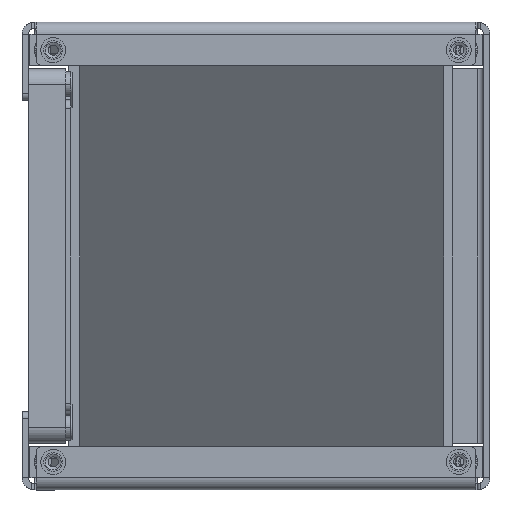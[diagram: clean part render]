
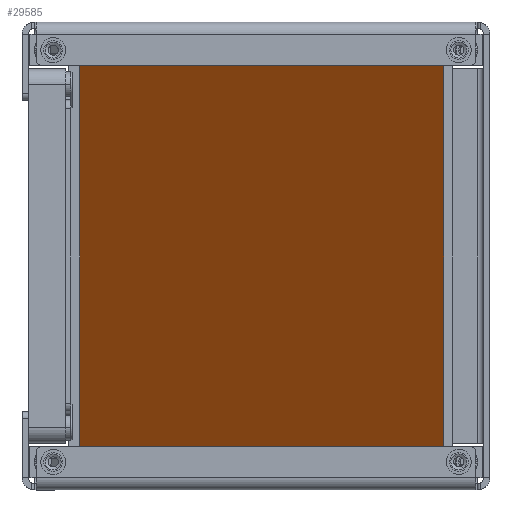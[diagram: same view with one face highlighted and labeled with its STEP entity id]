
A CAD part, front view. The second image highlights one B-rep face of the part: STEP entity #29585.
In plain terms, the highlighted planar face has unit normal (-0.707, -0.707, 0).
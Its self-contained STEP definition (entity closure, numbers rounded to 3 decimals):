
#752 = VECTOR ( 'NONE', #44128, 1000. ) ;
#1071 = CARTESIAN_POINT ( 'NONE',  ( 60.175, -58.831, 69. ) ) ;
#2107 = CARTESIAN_POINT ( 'NONE',  ( -56.498, 57.841, -69. ) ) ;
#2308 = CARTESIAN_POINT ( 'NONE',  ( 60.175, -58.831, 69. ) ) ;
#4572 = VECTOR ( 'NONE', #24885, 1000. ) ;
#6031 = VERTEX_POINT ( 'NONE', #39749 ) ;
#6913 = VERTEX_POINT ( 'NONE', #43244 ) ;
#8023 = LINE ( 'NONE', #38202, #34129 ) ;
#9134 = ORIENTED_EDGE ( 'NONE', *, *, #34923, .F. ) ;
#9194 = ORIENTED_EDGE ( 'NONE', *, *, #14042, .F. ) ;
#10055 = VERTEX_POINT ( 'NONE', #22738 ) ;
#10156 = EDGE_LOOP ( 'NONE', ( #9194, #31895, #9134, #42992, #26780, #22810, #33370, #34282 ) ) ;
#10870 = VERTEX_POINT ( 'NONE', #21002 ) ;
#11633 = LINE ( 'NONE', #14112, #47672 ) ;
#12323 = EDGE_CURVE ( 'NONE', #10870, #34523, #45535, .T. ) ;
#12730 = DIRECTION ( 'NONE',  ( -0.5, 0.5, 0.707 ) ) ;
#13890 = LINE ( 'NONE', #28954, #4572 ) ;
#14042 = EDGE_CURVE ( 'NONE', #36309, #6031, #15054, .T. ) ;
#14112 = CARTESIAN_POINT ( 'NONE',  ( -56.498, 57.841, 71. ) ) ;
#14225 = LINE ( 'NONE', #15788, #46164 ) ;
#15054 = LINE ( 'NONE', #40419, #27784 ) ;
#15407 = FACE_OUTER_BOUND ( 'NONE', #10156, .T. ) ;
#15788 = CARTESIAN_POINT ( 'NONE',  ( 60.175, -58.831, -71. ) ) ;
#16617 = EDGE_CURVE ( 'NONE', #6913, #6031, #13890, .T. ) ;
#17008 = DIRECTION ( 'NONE',  ( -0.707, 0.707, 0. ) ) ;
#17613 = LINE ( 'NONE', #29408, #752 ) ;
#19432 = AXIS2_PLACEMENT_3D ( 'NONE', #22458, #29461, #33607 ) ;
#21002 = CARTESIAN_POINT ( 'NONE',  ( 58.761, -57.417, -71. ) ) ;
#21990 = DIRECTION ( 'NONE',  ( 0., 0., 1. ) ) ;
#22458 = CARTESIAN_POINT ( 'NONE',  ( 1.838, -0.495, 0. ) ) ;
#22738 = CARTESIAN_POINT ( 'NONE',  ( -55.084, 56.427, -71. ) ) ;
#22810 = ORIENTED_EDGE ( 'NONE', *, *, #29141, .T. ) ;
#23648 = VERTEX_POINT ( 'NONE', #2308 ) ;
#24885 = DIRECTION ( 'NONE',  ( -0.5, 0.5, -0.707 ) ) ;
#26780 = ORIENTED_EDGE ( 'NONE', *, *, #39072, .F. ) ;
#27784 = VECTOR ( 'NONE', #21990, 1000. ) ;
#27934 = EDGE_CURVE ( 'NONE', #6913, #46035, #11633, .T. ) ;
#28597 = CARTESIAN_POINT ( 'NONE',  ( 58.761, -57.417, -71. ) ) ;
#28954 = CARTESIAN_POINT ( 'NONE',  ( -55.084, 56.427, 71. ) ) ;
#29141 = EDGE_CURVE ( 'NONE', #23648, #46035, #34617, .T. ) ;
#29408 = CARTESIAN_POINT ( 'NONE',  ( -56.498, 57.841, -69. ) ) ;
#29461 = DIRECTION ( 'NONE',  ( 0.707, 0.707, 0. ) ) ;
#29585 = ADVANCED_FACE ( 'NONE', ( #15407 ), #29598, .F. ) ;
#29598 = PLANE ( 'NONE',  #19432 ) ;
#29919 = DIRECTION ( 'NONE',  ( 0., 0., -1. ) ) ;
#30123 = EDGE_CURVE ( 'NONE', #36309, #10055, #17613, .T. ) ;
#30833 = CARTESIAN_POINT ( 'NONE',  ( 58.761, -57.417, 71. ) ) ;
#31895 = ORIENTED_EDGE ( 'NONE', *, *, #30123, .T. ) ;
#32743 = DIRECTION ( 'NONE',  ( 0.707, -0.707, 0. ) ) ;
#33370 = ORIENTED_EDGE ( 'NONE', *, *, #27934, .F. ) ;
#33607 = DIRECTION ( 'NONE',  ( 0.707, -0.707, 0. ) ) ;
#34129 = VECTOR ( 'NONE', #17008, 1000. ) ;
#34282 = ORIENTED_EDGE ( 'NONE', *, *, #16617, .T. ) ;
#34523 = VERTEX_POINT ( 'NONE', #39847 ) ;
#34617 = LINE ( 'NONE', #1071, #41594 ) ;
#34923 = EDGE_CURVE ( 'NONE', #10870, #10055, #8023, .T. ) ;
#35544 = VECTOR ( 'NONE', #43472, 1000. ) ;
#36309 = VERTEX_POINT ( 'NONE', #2107 ) ;
#38202 = CARTESIAN_POINT ( 'NONE',  ( -56.498, 57.841, -71. ) ) ;
#39072 = EDGE_CURVE ( 'NONE', #23648, #34523, #14225, .T. ) ;
#39749 = CARTESIAN_POINT ( 'NONE',  ( -56.498, 57.841, 69. ) ) ;
#39847 = CARTESIAN_POINT ( 'NONE',  ( 60.175, -58.831, -69. ) ) ;
#40419 = CARTESIAN_POINT ( 'NONE',  ( -56.498, 57.841, -71. ) ) ;
#41594 = VECTOR ( 'NONE', #12730, 1000. ) ;
#42992 = ORIENTED_EDGE ( 'NONE', *, *, #12323, .T. ) ;
#43244 = CARTESIAN_POINT ( 'NONE',  ( -55.084, 56.427, 71. ) ) ;
#43472 = DIRECTION ( 'NONE',  ( 0.5, -0.5, 0.707 ) ) ;
#44128 = DIRECTION ( 'NONE',  ( 0.5, -0.5, -0.707 ) ) ;
#45535 = LINE ( 'NONE', #28597, #35544 ) ;
#46035 = VERTEX_POINT ( 'NONE', #30833 ) ;
#46164 = VECTOR ( 'NONE', #29919, 1000. ) ;
#47672 = VECTOR ( 'NONE', #32743, 1000. ) ;
